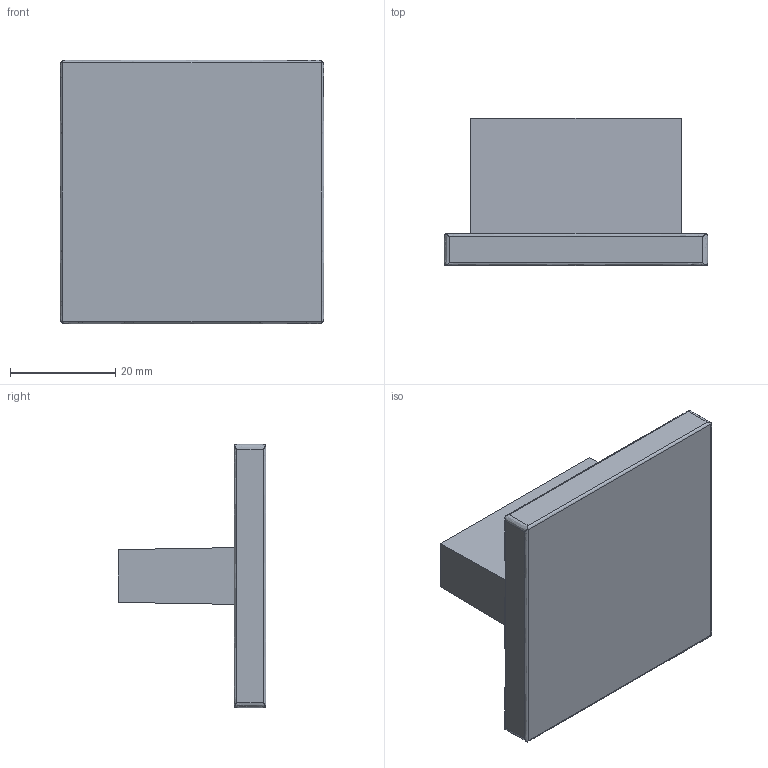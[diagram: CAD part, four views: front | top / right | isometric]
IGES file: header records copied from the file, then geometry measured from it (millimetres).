
Start section: Data from Parasolid IGES Translator 15.0.47, Copyright(c) 2006 Siemens P LM Software. All Rights Reserved.
Global section: file name: 9113395.igs; native system:  By UGS Corp.; preprocessor: XPlus GENERIC/IGES 3.0; author: Noname; organization: Noname; date: 20140122.171633; units: millimetre
Bounding box: 50 x 28.01 x 50 mm (x, y, z)
Surface area: 8466.1 mm2 (no closed solid volume)
Topology: 0 solids, 0 shells, 27 faces, 132 edges, 130 vertices
Faces by surface type: revolution 14, extrusion 13
